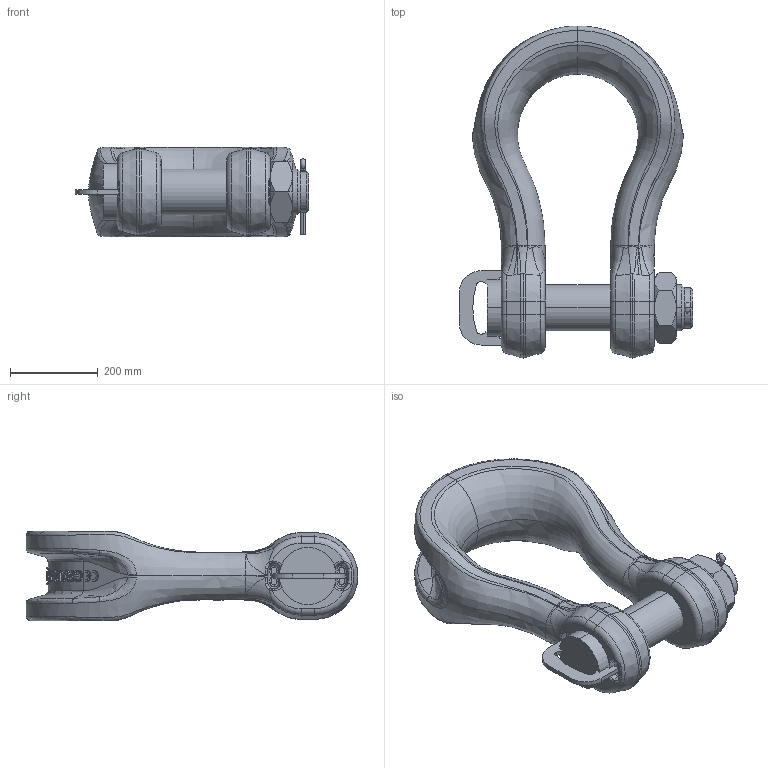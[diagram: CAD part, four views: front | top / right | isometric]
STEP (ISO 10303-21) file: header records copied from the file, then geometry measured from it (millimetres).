
FILE_DESCRIPTION(('STEP AP214'),'1');
FILE_NAME('slgpf0200.stp','2017-07-03T06:29:46',('TraceParts'),('TraceParts S.A.'),'Spatial InterOp 3D',' ',' ');
FILE_SCHEMA(('automotive_design'));
Length unit declared in the file: millimetre
Products named in the file (5): slgpf0200_1; slgpf0200_2; slgpf0200_3; slgpf0200_4; slgpf0200_5
Bounding box: 533.5 x 758.5 x 205 mm (x, y, z)
Volume: 23517767.1 mm3; surface area: 1110497.1 mm2
Topology: 5 solids, 5 shells, 630 faces, 1604 edges, 1009 vertices
Faces by surface type: bspline 231, plane 173, cylinder 86, torus 73, cone 67
Entity records: 141706 total; most frequent: CARTESIAN_POINT 122915, ORIENTED_EDGE 3204, DIRECTION 2240, EDGE_CURVE 1602, VERTEX_POINT 1009, AXIS2_PLACEMENT_3D 836, EDGE_LOOP 665, PRESENTATION_STYLE_ASSIGNMENT 640
